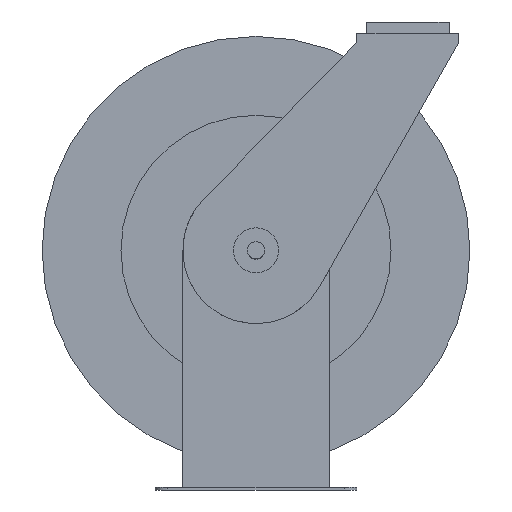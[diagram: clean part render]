
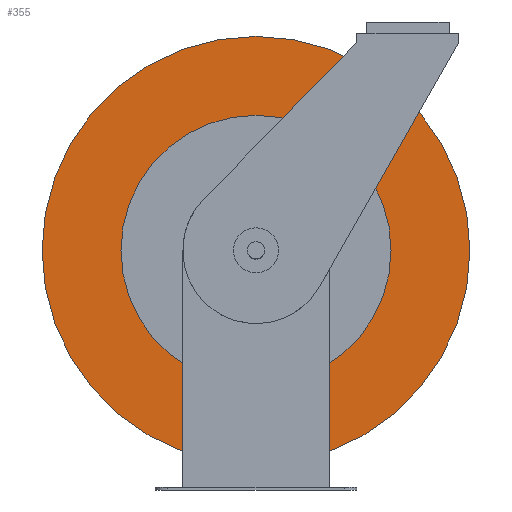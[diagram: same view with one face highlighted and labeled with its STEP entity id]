
A CAD part, front view. The second image highlights one B-rep face of the part: STEP entity #355.
In plain terms, the highlighted planar face has unit normal (0, -1, 0).
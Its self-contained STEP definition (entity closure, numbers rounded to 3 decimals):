
#355 = ADVANCED_FACE( '', ( #754, #755 ), #756, .T. );
#754 = FACE_OUTER_BOUND( '', #1189, .T. );
#755 = FACE_BOUND( '', #1190, .T. );
#756 = PLANE( '', #1191 );
#1189 = EDGE_LOOP( '', ( #2098 ) );
#1190 = EDGE_LOOP( '', ( #2099 ) );
#1191 = AXIS2_PLACEMENT_3D( '', #2100, #2101, #2102 );
#2098 = ORIENTED_EDGE( '', *, *, #2193, .T. );
#2099 = ORIENTED_EDGE( '', *, *, #2425, .F. );
#2100 = CARTESIAN_POINT( '', ( 0., 63.424, 419.532 ) );
#2101 = DIRECTION( '', ( 0., -1., 0. ) );
#2102 = DIRECTION( '', ( 1., 0., 0. ) );
#2193 = EDGE_CURVE( '', #2576, #2576, #2577, .T. );
#2425 = EDGE_CURVE( '', #2937, #2937, #2938, .T. );
#2576 = VERTEX_POINT( '', #3127 );
#2577 = CIRCLE( '', #3128, 241.3 );
#2937 = VERTEX_POINT( '', #3684 );
#2938 = CIRCLE( '', #3685, 152.324 );
#3127 = CARTESIAN_POINT( '', ( 241.3, 63.424, 267.208 ) );
#3128 = AXIS2_PLACEMENT_3D( '', #3865, #3866, #3867 );
#3684 = CARTESIAN_POINT( '', ( 152.324, 63.424, 267.208 ) );
#3685 = AXIS2_PLACEMENT_3D( '', #4112, #4113, #4114 );
#3865 = CARTESIAN_POINT( '', ( 0., 63.424, 267.208 ) );
#3866 = DIRECTION( '', ( 0., -1., 0. ) );
#3867 = DIRECTION( '', ( 1., 0., 0. ) );
#4112 = CARTESIAN_POINT( '', ( 0., 63.424, 267.208 ) );
#4113 = DIRECTION( '', ( 0., -1., 0. ) );
#4114 = DIRECTION( '', ( 1., 0., 0. ) );
